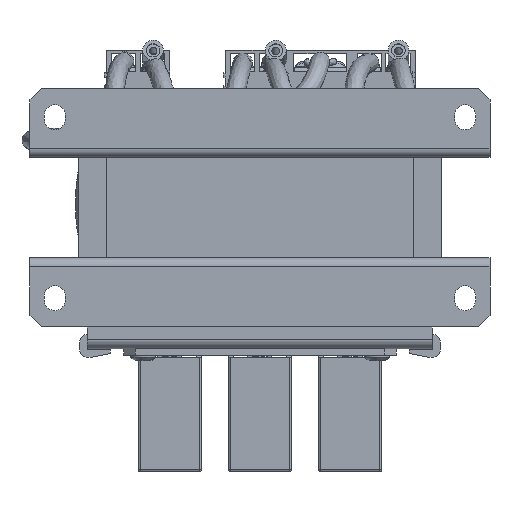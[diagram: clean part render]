
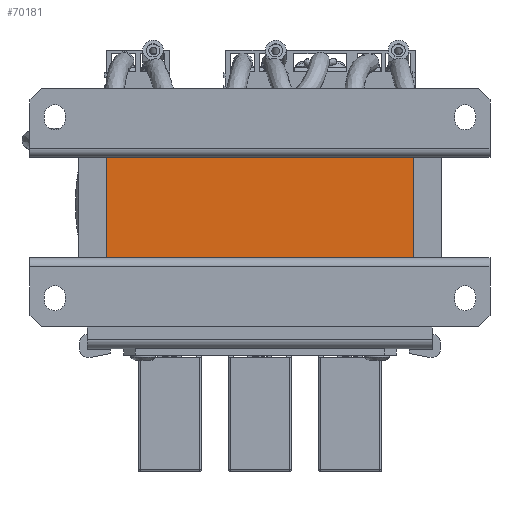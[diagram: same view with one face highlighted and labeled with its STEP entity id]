
A CAD part, front view. The second image highlights one B-rep face of the part: STEP entity #70181.
In plain terms, the highlighted planar face has unit normal (0, -1, 0).
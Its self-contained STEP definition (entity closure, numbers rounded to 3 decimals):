
#4821=LINE('',#109200,#11563);
#4878=LINE('',#109372,#11620);
#7297=LINE('',#121125,#14039);
#7306=LINE('',#121140,#14048);
#11563=VECTOR('',#86133,10.);
#11620=VECTOR('',#86298,10.);
#14039=VECTOR('',#92419,10.);
#14048=VECTOR('',#92434,10.);
#17346=PLANE('',#75947);
#20867=FACE_OUTER_BOUND('',#24886,.T.);
#24886=EDGE_LOOP('',(#60801,#60802,#60803,#60804));
#31547=VERTEX_POINT('',#109189);
#31551=VERTEX_POINT('',#109198);
#31600=VERTEX_POINT('',#109361);
#31604=VERTEX_POINT('',#109370);
#39560=EDGE_CURVE('',#31551,#31547,#4821,.T.);
#39642=EDGE_CURVE('',#31604,#31600,#4878,.T.);
#42978=EDGE_CURVE('',#31604,#31547,#7297,.T.);
#42987=EDGE_CURVE('',#31551,#31600,#7306,.T.);
#60801=ORIENTED_EDGE('',*,*,#42987,.T.);
#60802=ORIENTED_EDGE('',*,*,#39642,.F.);
#60803=ORIENTED_EDGE('',*,*,#42978,.T.);
#60804=ORIENTED_EDGE('',*,*,#39560,.F.);
#70181=ADVANCED_FACE('',(#20867),#17346,.T.);
#75947=AXIS2_PLACEMENT_3D('',#121185,#92486,#92487);
#86133=DIRECTION('',(-1.,0.,0.));
#86298=DIRECTION('',(1.,0.,0.));
#92419=DIRECTION('',(0.,0.,-1.));
#92434=DIRECTION('',(0.,0.,1.));
#92486=DIRECTION('center_axis',(0.,-1.,0.));
#92487=DIRECTION('ref_axis',(1.,0.,0.));
#109189=CARTESIAN_POINT('',(-38.541,-61.28,-24.487));
#109198=CARTESIAN_POINT('',(41.459,-61.28,-24.487));
#109200=CARTESIAN_POINT('',(41.459,-61.28,-24.487));
#109361=CARTESIAN_POINT('',(41.459,-61.28,1.713));
#109370=CARTESIAN_POINT('',(-38.541,-61.28,1.713));
#109372=CARTESIAN_POINT('',(41.459,-61.28,1.713));
#121125=CARTESIAN_POINT('',(-38.541,-61.28,-11.387));
#121140=CARTESIAN_POINT('',(41.459,-61.28,-11.387));
#121185=CARTESIAN_POINT('Origin',(-38.541,-61.28,-11.387));
